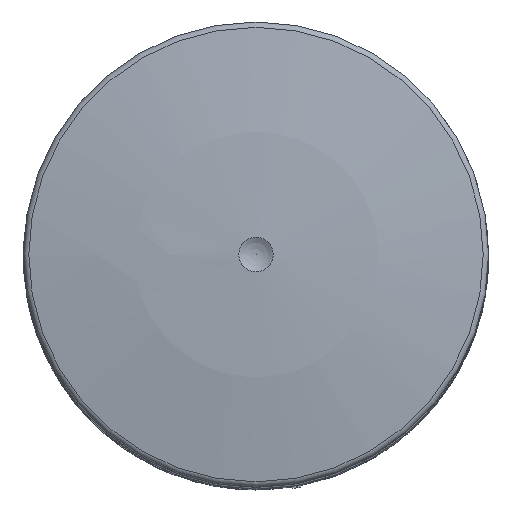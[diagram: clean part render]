
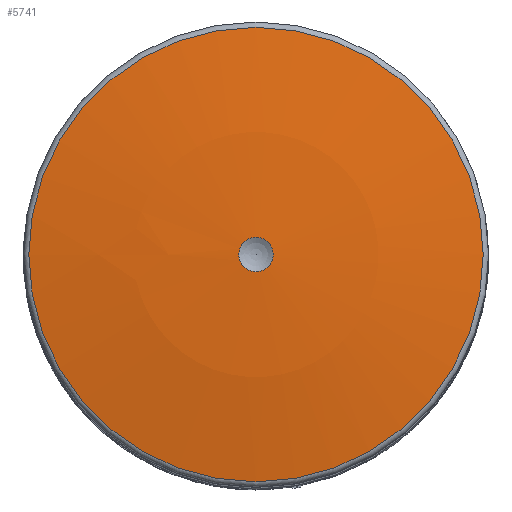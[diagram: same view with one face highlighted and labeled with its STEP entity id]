
A CAD part, top view. The second image highlights one B-rep face of the part: STEP entity #5741.
In plain terms, the highlighted spherical face has radius 220 mm.
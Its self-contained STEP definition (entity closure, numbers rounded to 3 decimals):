
#69=SPHERICAL_SURFACE('',#6307,220.);
#1293=FACE_OUTER_BOUND('',#1650,.T.);
#1650=EDGE_LOOP('',(#4585,#4586,#4587,#4588,#4589,#4590,#4591,#4592,#4593));
#1952=CIRCLE('',#6308,35.411);
#1953=CIRCLE('',#6309,35.411);
#1954=CIRCLE('',#6310,35.411);
#1955=CIRCLE('',#6311,35.411);
#1956=CIRCLE('',#6312,220.);
#1957=CIRCLE('',#6313,2.687);
#1958=CIRCLE('',#6314,2.687);
#1959=CIRCLE('',#6315,2.687);
#2455=VERTEX_POINT('',#10599);
#2456=VERTEX_POINT('',#10600);
#2457=VERTEX_POINT('',#10602);
#2458=VERTEX_POINT('',#10604);
#2459=VERTEX_POINT('',#10607);
#2460=VERTEX_POINT('',#10609);
#2461=VERTEX_POINT('',#10611);
#3194=EDGE_CURVE('',#2455,#2456,#1952,.T.);
#3195=EDGE_CURVE('',#2457,#2455,#1953,.T.);
#3196=EDGE_CURVE('',#2458,#2457,#1954,.T.);
#3197=EDGE_CURVE('',#2456,#2458,#1955,.T.);
#3198=EDGE_CURVE('',#2456,#2459,#1956,.T.);
#3199=EDGE_CURVE('',#2459,#2460,#1957,.T.);
#3200=EDGE_CURVE('',#2460,#2461,#1958,.T.);
#3201=EDGE_CURVE('',#2461,#2459,#1959,.T.);
#4585=ORIENTED_EDGE('',*,*,#3194,.F.);
#4586=ORIENTED_EDGE('',*,*,#3195,.F.);
#4587=ORIENTED_EDGE('',*,*,#3196,.F.);
#4588=ORIENTED_EDGE('',*,*,#3197,.F.);
#4589=ORIENTED_EDGE('',*,*,#3198,.T.);
#4590=ORIENTED_EDGE('',*,*,#3199,.T.);
#4591=ORIENTED_EDGE('',*,*,#3200,.T.);
#4592=ORIENTED_EDGE('',*,*,#3201,.T.);
#4593=ORIENTED_EDGE('',*,*,#3198,.F.);
#5741=ADVANCED_FACE('',(#1293),#69,.T.);
#6307=AXIS2_PLACEMENT_3D('',#10598,#7617,#7618);
#6308=AXIS2_PLACEMENT_3D('',#10601,#7619,#7620);
#6309=AXIS2_PLACEMENT_3D('',#10603,#7621,#7622);
#6310=AXIS2_PLACEMENT_3D('',#10605,#7623,#7624);
#6311=AXIS2_PLACEMENT_3D('',#10606,#7625,#7626);
#6312=AXIS2_PLACEMENT_3D('',#10608,#7627,#7628);
#6313=AXIS2_PLACEMENT_3D('',#10610,#7629,#7630);
#6314=AXIS2_PLACEMENT_3D('',#10612,#7631,#7632);
#6315=AXIS2_PLACEMENT_3D('',#10613,#7633,#7634);
#7617=DIRECTION('center_axis',(0.,0.,
-1.));
#7618=DIRECTION('ref_axis',(1.,0.,0.));
#7619=DIRECTION('center_axis',(0.,0.,-1.));
#7620=DIRECTION('ref_axis',(0.,1.,0.));
#7621=DIRECTION('center_axis',(0.,0.,-1.));
#7622=DIRECTION('ref_axis',(0.,1.,0.));
#7623=DIRECTION('center_axis',(0.,0.,-1.));
#7624=DIRECTION('ref_axis',(0.,1.,0.));
#7625=DIRECTION('center_axis',(0.,0.,-1.));
#7626=DIRECTION('ref_axis',(0.,1.,0.));
#7627=DIRECTION('center_axis',(0.,1.,0.));
#7628=DIRECTION('ref_axis',(-1.,0.,0.));
#7629=DIRECTION('center_axis',(0.,0.,-1.));
#7630=DIRECTION('ref_axis',(0.,-1.,0.));
#7631=DIRECTION('center_axis',(0.,0.,-1.));
#7632=DIRECTION('ref_axis',(0.,-1.,0.));
#7633=DIRECTION('center_axis',(0.,0.,-1.));
#7634=DIRECTION('ref_axis',(0.,-1.,0.));
#10598=CARTESIAN_POINT('Origin',(0.,0.,
23.3));
#10599=CARTESIAN_POINT('',(0.,-35.411,240.431));
#10600=CARTESIAN_POINT('',(-35.411,0.,240.431));
#10601=CARTESIAN_POINT('Origin',(0.,0.,
240.431));
#10602=CARTESIAN_POINT('',(35.411,0.,240.431));
#10603=CARTESIAN_POINT('Origin',(0.,0.,
240.431));
#10604=CARTESIAN_POINT('',(0.,35.411,240.431));
#10605=CARTESIAN_POINT('Origin',(0.,0.,
240.431));
#10606=CARTESIAN_POINT('Origin',(0.,0.,
240.431));
#10607=CARTESIAN_POINT('',(-2.687,0.,243.284));
#10608=CARTESIAN_POINT('Origin',(0.,0.,
23.3));
#10609=CARTESIAN_POINT('',(0.,2.687,243.284));
#10610=CARTESIAN_POINT('Origin',(0.,0.,
243.284));
#10611=CARTESIAN_POINT('',(0.,-2.687,243.284));
#10612=CARTESIAN_POINT('Origin',(0.,0.,
243.284));
#10613=CARTESIAN_POINT('Origin',(0.,0.,
243.284));
